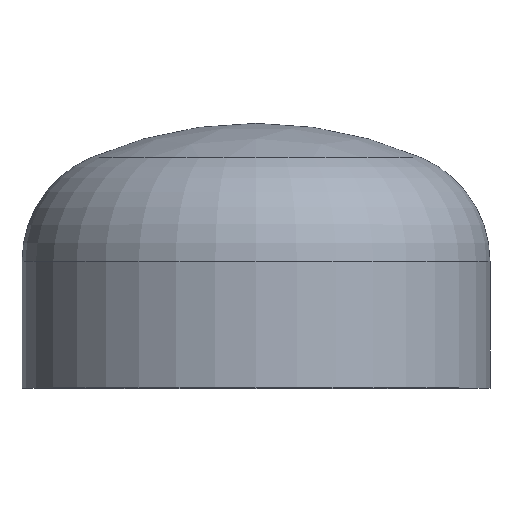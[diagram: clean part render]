
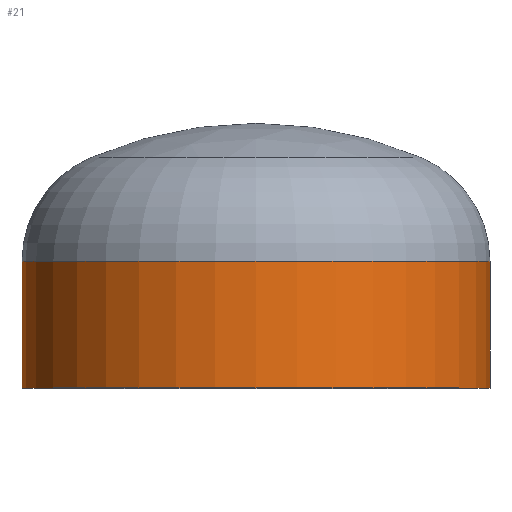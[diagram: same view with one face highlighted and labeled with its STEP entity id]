
A CAD part, top view. The second image highlights one B-rep face of the part: STEP entity #21.
In plain terms, the highlighted cylindrical face has radius 203.2 mm (diameter 406.4 mm), a partial arc.
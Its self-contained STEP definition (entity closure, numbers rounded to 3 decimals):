
#1 = DIRECTION ( 'NONE',  ( 0., -1., 0. ) ) ;
#21 = ADVANCED_FACE ( 'NONE', ( #356 ), #346, .T. ) ;
#25 = VERTEX_POINT ( 'NONE', #315 ) ;
#31 = DIRECTION ( 'NONE',  ( 1., 0., 0. ) ) ;
#34 = AXIS2_PLACEMENT_3D ( 'NONE', #330, #1, #59 ) ;
#35 = CARTESIAN_POINT ( 'NONE',  ( -203.2, 110., 0. ) ) ;
#44 = EDGE_CURVE ( 'NONE', #288, #25, #337, .T. ) ;
#46 = LINE ( 'NONE', #299, #121 ) ;
#49 = DIRECTION ( 'NONE',  ( 0., -1., 0. ) ) ;
#59 = DIRECTION ( 'NONE',  ( 1., 0., 0. ) ) ;
#65 = EDGE_CURVE ( 'NONE', #25, #388, #406, .T. ) ;
#76 = CARTESIAN_POINT ( 'NONE',  ( -203.2, 0., 0. ) ) ;
#109 = ORIENTED_EDGE ( 'NONE', *, *, #44, .F. ) ;
#119 = EDGE_LOOP ( 'NONE', ( #182, #403, #272, #109 ) ) ;
#120 = DIRECTION ( 'NONE',  ( 0., -1., 0. ) ) ;
#121 = VECTOR ( 'NONE', #49, 1000. ) ;
#125 = CARTESIAN_POINT ( 'NONE',  ( 0., 110., 0. ) ) ;
#130 = EDGE_CURVE ( 'NONE', #288, #166, #142, .T. ) ;
#142 = CIRCLE ( 'NONE', #144, 203.2 ) ;
#144 = AXIS2_PLACEMENT_3D ( 'NONE', #125, #120, #31 ) ;
#149 = CARTESIAN_POINT ( 'NONE',  ( 203.2, 0., 0. ) ) ;
#166 = VERTEX_POINT ( 'NONE', #35 ) ;
#169 = DIRECTION ( 'NONE',  ( 0., -1., 0. ) ) ;
#182 = ORIENTED_EDGE ( 'NONE', *, *, #130, .T. ) ;
#214 = EDGE_CURVE ( 'NONE', #166, #388, #46, .T. ) ;
#241 = VECTOR ( 'NONE', #169, 1000. ) ;
#254 = CARTESIAN_POINT ( 'NONE',  ( 203.2, 110., 0. ) ) ;
#269 = DIRECTION ( 'NONE',  ( 1., 0., 0. ) ) ;
#272 = ORIENTED_EDGE ( 'NONE', *, *, #65, .F. ) ;
#277 = DIRECTION ( 'NONE',  ( 0., -1., 0. ) ) ;
#288 = VERTEX_POINT ( 'NONE', #254 ) ;
#299 = CARTESIAN_POINT ( 'NONE',  ( -203.2, 0., 0. ) ) ;
#315 = CARTESIAN_POINT ( 'NONE',  ( 203.2, 0., 0. ) ) ;
#323 = CARTESIAN_POINT ( 'NONE',  ( 0., 0., 0. ) ) ;
#330 = CARTESIAN_POINT ( 'NONE',  ( 0., 0., 0. ) ) ;
#337 = LINE ( 'NONE', #149, #241 ) ;
#346 = CYLINDRICAL_SURFACE ( 'NONE', #367, 203.2 ) ;
#356 = FACE_OUTER_BOUND ( 'NONE', #119, .T. ) ;
#367 = AXIS2_PLACEMENT_3D ( 'NONE', #323, #277, #269 ) ;
#388 = VERTEX_POINT ( 'NONE', #76 ) ;
#403 = ORIENTED_EDGE ( 'NONE', *, *, #214, .T. ) ;
#406 = CIRCLE ( 'NONE', #34, 203.2 ) ;
